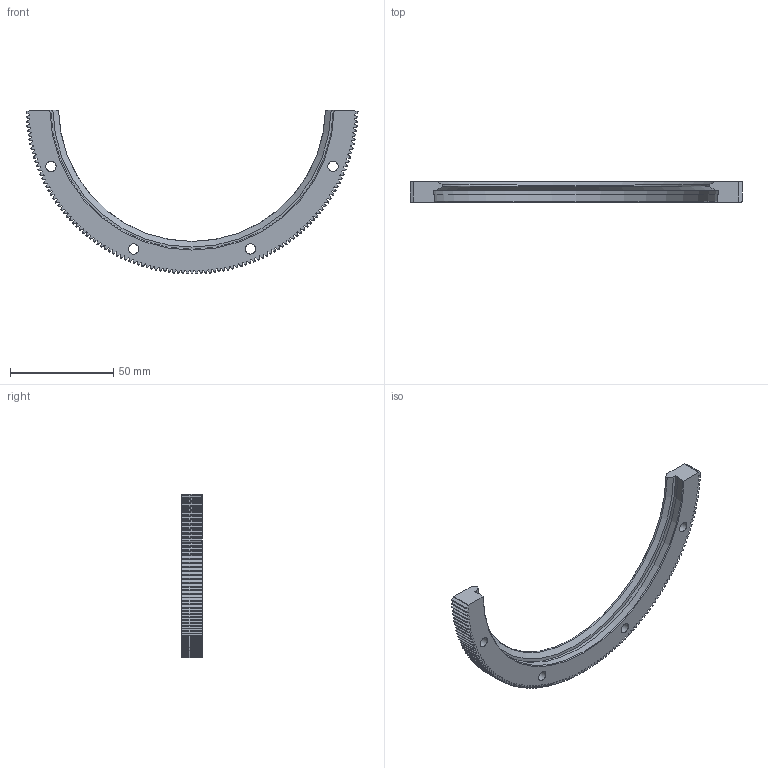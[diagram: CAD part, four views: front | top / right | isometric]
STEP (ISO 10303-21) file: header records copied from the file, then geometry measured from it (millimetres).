
FILE_DESCRIPTION(('STEP AP203'),'1');
FILE_NAME('RIV 161 R180 P.stp','2022-07-19T05:00:47',(' '),(' '),'Spatial InterOp 3D',' ',' ');
FILE_SCHEMA(('CONFIG_CONTROL_DESIGN'));
Length unit declared in the file: millimetre
Products named in the file (1): RIV 161 R180 P
Bounding box: 160.95 x 10 x 79.5 mm (x, y, z)
Volume: 26732.4 mm3; surface area: 14318.5 mm2
Topology: 1 solids, 1 shells, 704 faces, 2098 edges, 1400 vertices
Faces by surface type: plane 464, cylinder 123, cone 116, torus 1
Full cylindrical faces by diameter (mm): 5 x4, 8 x4
Entity records: 23744 total; most frequent: CARTESIAN_POINT 4899, ORIENTED_EDGE 4172, DIRECTION 3626, EDGE_CURVE 2086, LINE 1488, VECTOR 1488, VERTEX_POINT 1396, AXIS2_PLACEMENT_3D 1069
